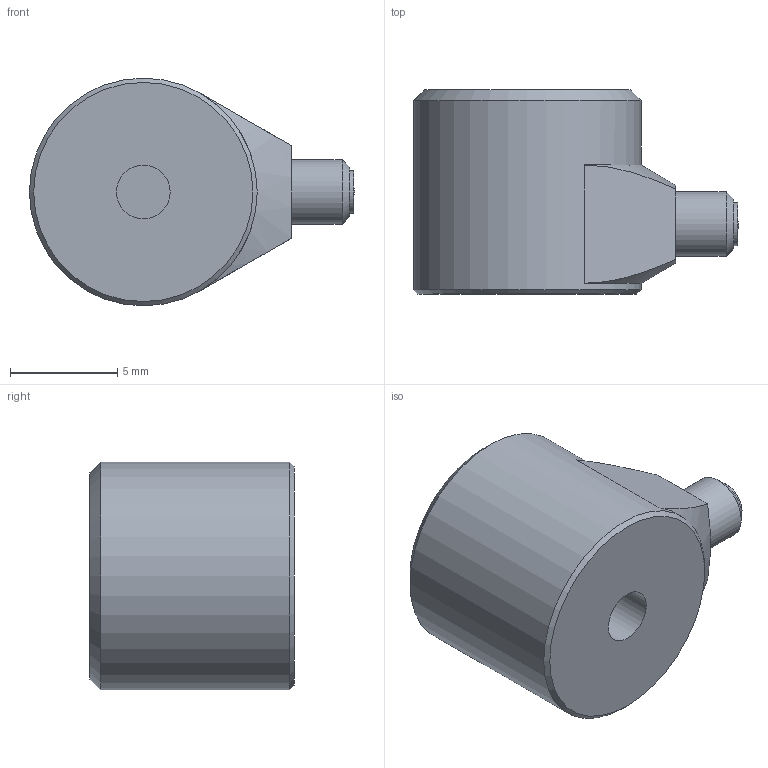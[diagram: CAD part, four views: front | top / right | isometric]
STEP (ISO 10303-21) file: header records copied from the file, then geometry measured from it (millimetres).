
FILE_DESCRIPTION(/* description */ ('Alibre Inc.'),/* implementation_level */ '2;1');
FILE_NAME(/* name */ 'export-5B9033E1-A02C-4B73-978D-240E257ECFFF',/* time_stamp */ '2019-01-29T10:41:14+01:00',/* author */ (''),/* organization */ (''),/* preprocessor_version */ 'ST-DEVELOPER v17',/* originating_system */ 'Alibre',/* authorisation */ '');
FILE_SCHEMA (('CONFIG_CONTROL_DESIGN'));
Length unit declared in the file: millimetre
Products named in the file (1): ID_1
Bounding box: 15.13 x 9.5 x 10.6 mm (x, y, z)
Volume: 891.8 mm3; surface area: 582.2 mm2
Topology: 1 solids, 4 shells, 372 faces, 1003 edges, 666 vertices
Faces by surface type: bspline 221, plane 123, cylinder 16, cone 10, torus 2
Full cylindrical faces by diameter (mm): 0.7 x1, 1 x1, 1.1 x1, 1.3 x1, 1.9 x1, 2 x1, 2.5 x1, 3 x1, 10.6 x1
Entity records: 11671 total; most frequent: CARTESIAN_POINT 4060, ORIENTED_EDGE 1948, EDGE_CURVE 972, DIRECTION 731, VERTEX_POINT 655, VECTOR 477, LINE 477, B_SPLINE_CURVE_WITH_KNOTS 443
